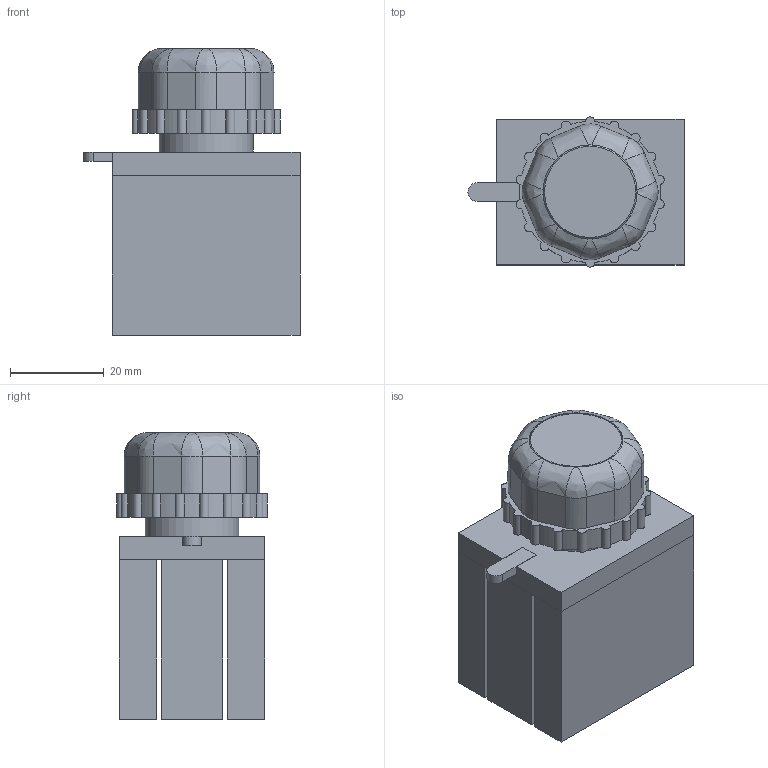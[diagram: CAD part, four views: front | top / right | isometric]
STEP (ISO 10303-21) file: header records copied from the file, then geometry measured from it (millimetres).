
FILE_DESCRIPTION(/* description */ (''),/* implementation_level */ '2;1');
FILE_NAME(/* name */ 'D:\CHINT3\NP8-BND.stp',/* time_stamp */ '2017-12-10T20:52:38+03:00',/* author */ ('RSagdiev'),/* organization */ (''),/* preprocessor_version */ 'ST-DEVELOPER v16.5',/* originating_system */ 'Autodesk Inventor 2017',/* authorisation */ '');
FILE_SCHEMA (('AUTOMOTIVE_DESIGN { 1 0 10303 214 3 1 1 }'));
Length unit declared in the file: millimetre
Products named in the file (1): NP8-BND
Bounding box: 46 x 32 x 61 mm (x, y, z)
Volume: 58354.4 mm3; surface area: 22594 mm2
Topology: 9 solids, 9 shells, 149 faces, 379 edges, 247 vertices
Faces by surface type: plane 84, cylinder 48, bspline 16, cone 1
Full cylindrical faces by diameter (mm): 20 x3
Entity records: 4898 total; most frequent: CARTESIAN_POINT 1218, ORIENTED_EDGE 748, DIRECTION 746, EDGE_CURVE 374, AXIS2_PLACEMENT_3D 254, VERTEX_POINT 246, LINE 238, VECTOR 238
